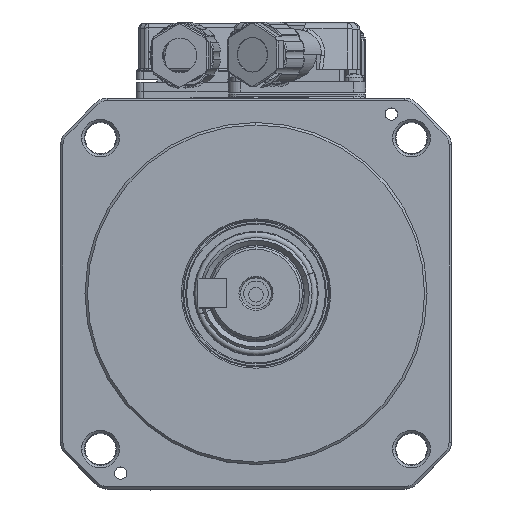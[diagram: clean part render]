
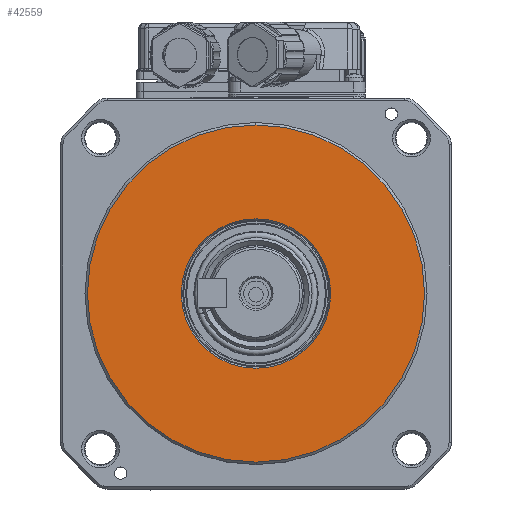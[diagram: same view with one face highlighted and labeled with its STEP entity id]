
A CAD part, top view. The second image highlights one B-rep face of the part: STEP entity #42559.
In plain terms, the highlighted planar face has unit normal (0, 0, 1).
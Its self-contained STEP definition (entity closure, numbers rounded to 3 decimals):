
#94 = VERTEX_POINT ( 'NONE', #64826 ) ;
#1079 = DIRECTION ( 'NONE',  ( 0., -1., 0. ) ) ;
#1251 = CIRCLE ( 'NONE', #44277, 15.289 ) ;
#2481 = AXIS2_PLACEMENT_3D ( 'NONE', #55016, #7357, #30824 ) ;
#5489 = DIRECTION ( 'NONE',  ( 0., 1., 0. ) ) ;
#7357 = DIRECTION ( 'NONE',  ( 0., 0., 1. ) ) ;
#8051 = ORIENTED_EDGE ( 'NONE', *, *, #37552, .F. ) ;
#9617 = ORIENTED_EDGE ( 'NONE', *, *, #61743, .T. ) ;
#10891 = PLANE ( 'NONE',  #23736 ) ;
#13886 = VERTEX_POINT ( 'NONE', #27515 ) ;
#14653 = EDGE_LOOP ( 'NONE', ( #9617, #47984 ) ) ;
#23736 = AXIS2_PLACEMENT_3D ( 'NONE', #40141, #57024, #5489 ) ;
#23973 = CARTESIAN_POINT ( 'NONE',  ( 0., -15.289, 0. ) ) ;
#24554 = VERTEX_POINT ( 'NONE', #41059 ) ;
#25225 = CARTESIAN_POINT ( 'NONE',  ( 0., 0., 0. ) ) ;
#25292 = DIRECTION ( 'NONE',  ( 0., 0., 1. ) ) ;
#27515 = CARTESIAN_POINT ( 'NONE',  ( 0., -34.5, 0. ) ) ;
#28852 = CARTESIAN_POINT ( 'NONE',  ( 0., 0., 0. ) ) ;
#30631 = CIRCLE ( 'NONE', #57621, 34.5 ) ;
#30824 = DIRECTION ( 'NONE',  ( 0., -1., 0. ) ) ;
#31101 = CARTESIAN_POINT ( 'NONE',  ( 0., 0., 0. ) ) ;
#33594 = FACE_BOUND ( 'NONE', #72368, .T. ) ;
#36355 = VERTEX_POINT ( 'NONE', #23973 ) ;
#37552 = EDGE_CURVE ( 'NONE', #36355, #24554, #1251, .T. ) ;
#40141 = CARTESIAN_POINT ( 'NONE',  ( 0., 14.7, 0. ) ) ;
#41059 = CARTESIAN_POINT ( 'NONE',  ( 0., 15.289, 0. ) ) ;
#41283 = AXIS2_PLACEMENT_3D ( 'NONE', #31101, #25292, #1079 ) ;
#42559 = ADVANCED_FACE ( 'NONE', ( #33594, #57412 ), #10891, .F. ) ;
#44277 = AXIS2_PLACEMENT_3D ( 'NONE', #28852, #52317, #75828 ) ;
#47457 = DIRECTION ( 'NONE',  ( 0., 0., 1. ) ) ;
#47984 = ORIENTED_EDGE ( 'NONE', *, *, #56267, .T. ) ;
#52317 = DIRECTION ( 'NONE',  ( 0., 0., 1. ) ) ;
#52838 = DIRECTION ( 'NONE',  ( 0., -1., 0. ) ) ;
#55016 = CARTESIAN_POINT ( 'NONE',  ( 0., 0., 0. ) ) ;
#55962 = CIRCLE ( 'NONE', #41283, 34.5 ) ;
#56267 = EDGE_CURVE ( 'NONE', #13886, #94, #30631, .T. ) ;
#56517 = CIRCLE ( 'NONE', #2481, 15.289 ) ;
#57024 = DIRECTION ( 'NONE',  ( 0., 0., -1. ) ) ;
#57301 = EDGE_CURVE ( 'NONE', #24554, #36355, #56517, .T. ) ;
#57412 = FACE_OUTER_BOUND ( 'NONE', #14653, .T. ) ;
#57621 = AXIS2_PLACEMENT_3D ( 'NONE', #25225, #47457, #52838 ) ;
#61743 = EDGE_CURVE ( 'NONE', #94, #13886, #55962, .T. ) ;
#64826 = CARTESIAN_POINT ( 'NONE',  ( 0., 34.5, 0. ) ) ;
#68186 = ORIENTED_EDGE ( 'NONE', *, *, #57301, .F. ) ;
#72368 = EDGE_LOOP ( 'NONE', ( #8051, #68186 ) ) ;
#75828 = DIRECTION ( 'NONE',  ( 0., -1., 0. ) ) ;
